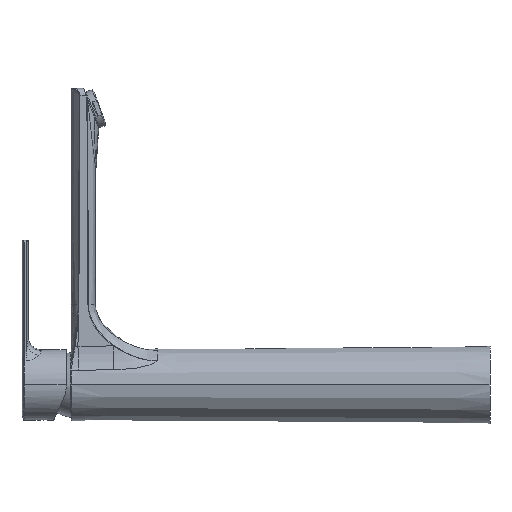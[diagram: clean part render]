
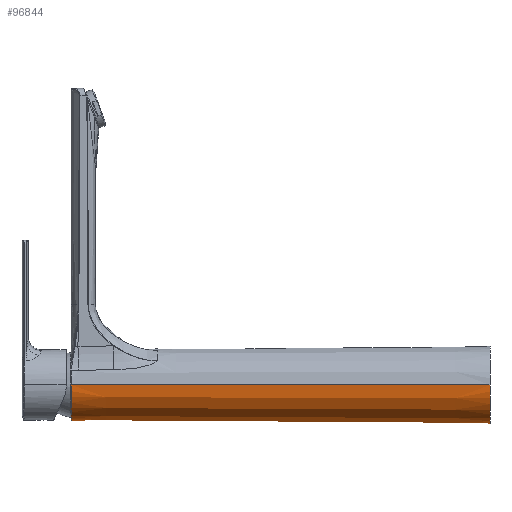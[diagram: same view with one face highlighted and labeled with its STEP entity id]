
A CAD part, left-side view. The second image highlights one B-rep face of the part: STEP entity #96844.
In plain terms, the highlighted conical face has half-angle 0.4 degrees and reference radius 23.091 mm.
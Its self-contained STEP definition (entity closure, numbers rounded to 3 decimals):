
#8050=DIRECTION('',(-0.007,1.,0.));
#8051=VECTOR('',#8050,260.506);
#8052=CARTESIAN_POINT('',(24.,0.,0.));
#8053=LINE('',#8052,#8051);
#8164=CARTESIAN_POINT('',(0.,0.,0.));
#8165=DIRECTION('',(0.,1.,0.));
#8166=DIRECTION('',(1.,0.,0.));
#8167=AXIS2_PLACEMENT_3D('',#8164,#8165,#8166);
#8169=CARTESIAN_POINT('',(0.,260.5,0.));
#8170=DIRECTION('',(0.,1.,0.));
#8171=DIRECTION('',(1.,0.,0.));
#8172=AXIS2_PLACEMENT_3D('',#8169,#8170,#8171);
#8174=DIRECTION('',(-0.007,-1.,0.));
#8175=VECTOR('',#8174,260.506);
#8176=CARTESIAN_POINT('',(-22.181,260.5,0.));
#8177=LINE('',#8176,#8175);
#76416=CARTESIAN_POINT('',(22.181,260.5,0.));
#76417=CARTESIAN_POINT('',(-22.181,260.5,0.));
#76418=VERTEX_POINT('',#76416);
#76419=VERTEX_POINT('',#76417);
#76560=CARTESIAN_POINT('',(24.,0.,0.));
#76561=CARTESIAN_POINT('',(-24.,0.,0.));
#76562=VERTEX_POINT('',#76560);
#76563=VERTEX_POINT('',#76561);
#96832=CARTESIAN_POINT('',(0.,130.25,0.));
#96833=DIRECTION('',(0.,-1.,0.));
#96834=DIRECTION('',(-1.,0.,0.));
#96835=AXIS2_PLACEMENT_3D('',#96832,#96833,#96834);
#96836=CONICAL_SURFACE('',#96835,23.091,0.4);
#96838=ORIENTED_EDGE('',*,*,#96837,.F.);
#96839=ORIENTED_EDGE('',*,*,#96805,.T.);
#96840=ORIENTED_EDGE('',*,*,#96663,.T.);
#96841=ORIENTED_EDGE('',*,*,#96809,.T.);
#96842=EDGE_LOOP('',(#96838,#96839,#96840,#96841));
#96843=FACE_OUTER_BOUND('',#96842,.F.);
#96844=ADVANCED_FACE('',(#96843),#96836,.T.);
#8168=CIRCLE('',#8167,24.);
#8173=CIRCLE('',#8172,22.181);
#96663=EDGE_CURVE('',#76418,#76419,#8173,.T.);
#96805=EDGE_CURVE('',#76562,#76418,#8053,.T.);
#96809=EDGE_CURVE('',#76419,#76563,#8177,.T.);
#96837=EDGE_CURVE('',#76562,#76563,#8168,.T.);
